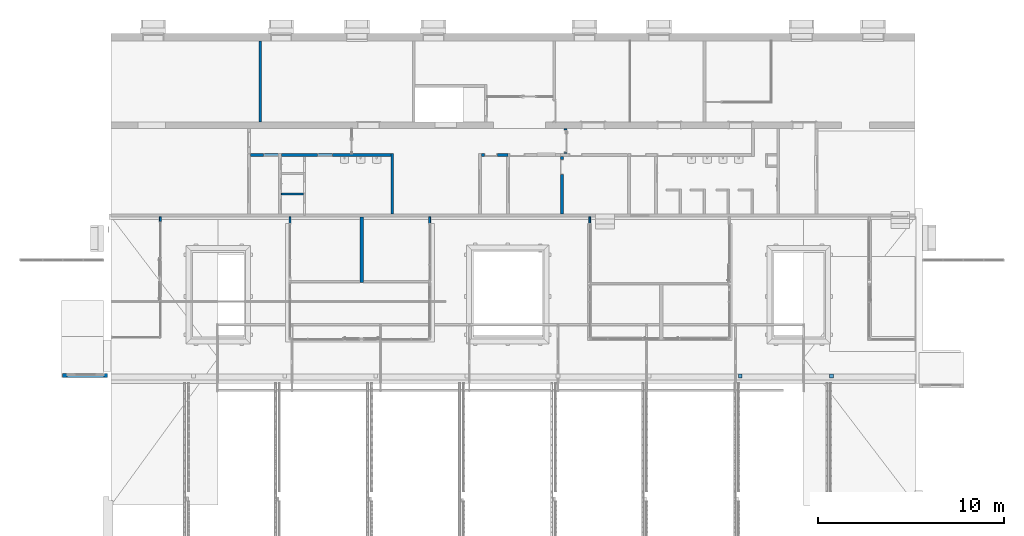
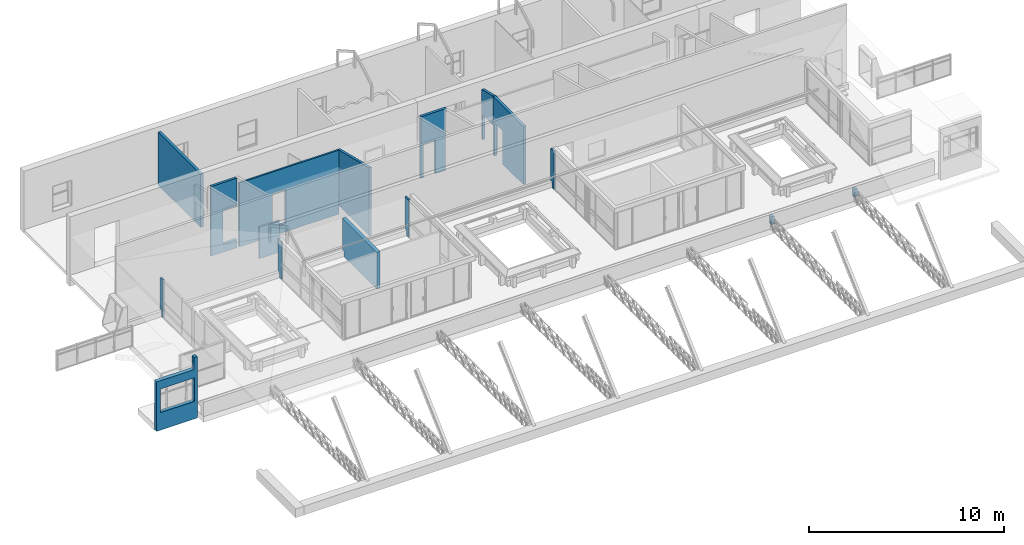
# One storey, part 125 of 153: 16 walls, 6 openings.
"""IFC4 building model written with IfcOpenShell, lengths in metres."""

from ifc_helpers import new_model, entity, si_unit, converted_unit, derived_unit, direction, frame, origin, place, context, subcontext, project, spatial, indexed_curve, outline, extrude, polygons, material, type_object, element, save


model = new_model("IFC4")

# Units and contexts
model_context = context("Model", 3, precision=1e-05, world=origin(), true_north=direction((6.123031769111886e-17, 1.0)))
body_context = subcontext(model_context, "Body", "Model", "MODEL_VIEW")
ifc_project = project(units=[si_unit("LENGTHUNIT", "METRE"), si_unit("AREAUNIT", "SQUARE_METRE"), si_unit("VOLUMEUNIT", "CUBIC_METRE"), converted_unit("PLANEANGLEUNIT", "DEGREE", entity("IfcRatioMeasure", 0.017453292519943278), si_unit("PLANEANGLEUNIT", "RADIAN"), dimensions=[0, 0, 0, 0, 0, 0, 0]), si_unit("MASSUNIT", "GRAM", prefix="KILO"), derived_unit("MASSDENSITYUNIT", [(si_unit("MASSUNIT", "GRAM", prefix="KILO"), 1), (si_unit("LENGTHUNIT", "METRE"), -3)]), derived_unit("MOMENTOFINERTIAUNIT", [(si_unit("LENGTHUNIT", "METRE"), 4)]), si_unit("TIMEUNIT", "SECOND"), si_unit("FREQUENCYUNIT", "HERTZ"), si_unit("THERMODYNAMICTEMPERATUREUNIT", "DEGREE_CELSIUS"), derived_unit("THERMALTRANSMITTANCEUNIT", [(si_unit("MASSUNIT", "GRAM", prefix="KILO"), 1), (si_unit("THERMODYNAMICTEMPERATUREUNIT", "KELVIN"), -1), (si_unit("TIMEUNIT", "SECOND"), -3)]), derived_unit("VOLUMETRICFLOWRATEUNIT", [(si_unit("LENGTHUNIT", "METRE"), 3), (si_unit("TIMEUNIT", "SECOND"), -1)]), derived_unit("MASSFLOWRATEUNIT", [(si_unit("MASSUNIT", "GRAM", prefix="KILO"), 1), (si_unit("TIMEUNIT", "SECOND"), -1)]), derived_unit("ROTATIONALFREQUENCYUNIT", [(si_unit("TIMEUNIT", "SECOND"), -1)]), si_unit("ELECTRICCURRENTUNIT", "AMPERE"), si_unit("ELECTRICVOLTAGEUNIT", "VOLT"), si_unit("POWERUNIT", "WATT"), si_unit("FORCEUNIT", "NEWTON", prefix="KILO"), si_unit("ILLUMINANCEUNIT", "LUX"), si_unit("LUMINOUSFLUXUNIT", "LUMEN"), si_unit("LUMINOUSINTENSITYUNIT", "CANDELA"), derived_unit("USERDEFINED", [(si_unit("MASSUNIT", "GRAM", prefix="KILO"), -1), (si_unit("LENGTHUNIT", "METRE"), -2), (si_unit("TIMEUNIT", "SECOND"), 3), (si_unit("LUMINOUSFLUXUNIT", "LUMEN"), 1)]), derived_unit("SOUNDPOWERUNIT", [(si_unit("MASSUNIT", "GRAM", prefix="KILO"), 1), (si_unit("LENGTHUNIT", "METRE"), 2), (si_unit("TIMEUNIT", "SECOND"), -3)]), derived_unit("SOUNDPRESSUREUNIT", [(si_unit("MASSUNIT", "GRAM", prefix="KILO"), 1), (si_unit("LENGTHUNIT", "METRE"), -1), (si_unit("TIMEUNIT", "SECOND"), -2)]), derived_unit("LINEARVELOCITYUNIT", [(si_unit("LENGTHUNIT", "METRE"), 1), (si_unit("TIMEUNIT", "SECOND"), -1)]), si_unit("PRESSUREUNIT", "PASCAL"), derived_unit("USERDEFINED", [(si_unit("LENGTHUNIT", "METRE"), -2), (si_unit("MASSUNIT", "GRAM", prefix="KILO"), 1), (si_unit("TIMEUNIT", "SECOND"), -2)]), derived_unit("LINEARFORCEUNIT", [(si_unit("MASSUNIT", "GRAM", prefix="KILO"), 1), (si_unit("LENGTHUNIT", "METRE"), 1), (si_unit("TIMEUNIT", "SECOND"), -2), (si_unit("LENGTHUNIT", "METRE"), -1)]), derived_unit("PLANARFORCEUNIT", [(si_unit("MASSUNIT", "GRAM", prefix="KILO"), 1), (si_unit("LENGTHUNIT", "METRE"), 1), (si_unit("TIMEUNIT", "SECOND"), -2), (si_unit("LENGTHUNIT", "METRE"), -2)])], contexts=[model_context])

# Site, building, storey
site_placement = place(None, origin())
site = spatial("IfcSite", under=ifc_project, at=site_placement, Name="Superficie", CompositionType="ELEMENT")
building_placement = place(site_placement, origin())
building = spatial("IfcBuilding", under=site, at=building_placement, CompositionType="ELEMENT")
storey_placement = place(building_placement, frame((0.0, 0.0, 3.5999999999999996)))
storey = spatial("IfcBuildingStorey", under=building, at=storey_placement, Name="Nivel 1", CompositionType="ELEMENT", Elevation=3.5999999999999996)

# Walls
ifc_material = material(Name="Muro por defecto", Category="Varios")
wall_type_1 = type_object("IfcWallType", Name="Muro básico:Por defecto - 20 cm", PredefinedType="STANDARD")
wall_1_placement = place(storey_placement, frame((-9.17320098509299, 2.0858292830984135, 0.0), z_axis=(0.0, 0.0, 1.0), x_axis=(0.0, 1.0, 0.0)))
element("IfcWall", 1, at=wall_1_placement, inside=storey, type_object=wall_type_1, material=ifc_material, Name="Muro básico:Por defecto - 20 cm", ObjectType="Muro básico:Por defecto - 20 cm", PredefinedType="NOTDEFINED", context=body_context, shape_type="Tessellation", body=[
    polygons([(5.414335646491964e-16, -0.10000000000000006, -5.414335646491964e-16), (0.0005639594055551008, -0.10000000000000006, -5.414335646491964e-16), (0.10056395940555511, -0.09999999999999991, -5.414335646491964e-16), (3.3899999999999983, -0.10000000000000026, -5.414335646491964e-16), (3.3899999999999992, -0.10000000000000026, 0.35000000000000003), (3.5399999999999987, -0.10000000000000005, 0.35000000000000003), (3.5399999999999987, -0.10000000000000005, 2.299999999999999), (0.10056395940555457, -0.09999999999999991, 2.299999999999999), (0.0005639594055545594, -0.10000000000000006, 2.299999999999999), (5.414335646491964e-16, -0.10000000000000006, 2.299999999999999), (0.0, 0.09999999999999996, -5.414335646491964e-16), (0.0, 0.09999999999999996, 2.299999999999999), (0.0005639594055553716, 0.09999999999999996, 2.299999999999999), (0.10056395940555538, 0.1000000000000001, 2.299999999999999), (3.539999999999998, 0.10000000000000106, 2.299999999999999), (3.539999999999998, 0.10000000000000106, 0.35000000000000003), (3.3899999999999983, 0.10000000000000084, 0.35000000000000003), (3.3899999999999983, 0.10000000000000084, -5.414335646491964e-16), (0.10056395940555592, 0.1000000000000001, -5.414335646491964e-16), (0.000563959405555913, 0.09999999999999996, -5.414335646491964e-16)], [[[1, 2, 3, 4, 5, 6, 7, 8, 9, 10]], [[11, 12, 13, 14, 15, 16, 17, 18, 19, 20]], [[4, 3, 2, 1, 11, 20, 19, 18]], [[10, 9, 8, 7, 15, 14, 13, 12]], [[1, 10, 12, 11]], [[16, 6, 5, 17]], [[5, 4, 18, 17]], [[7, 6, 16, 15]]], closed=True),
])
for number, where, z_axis, x_axis, name in (
    (2, (16.086799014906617, -3.0336067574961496, 0.0), (0.0, 0.0, 1.0), (0.0, 1.0, 0.0), "Muro básico:Por defecto - 20 cm"),
    (3, (11.186799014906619, -3.0336067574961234, 0.0), (0.0, 0.0, 1.0), (0.0, 1.0, 0.0), "Muro básico:Por defecto - 20 cm"),
):
    element("IfcWall", number, at=place(storey_placement, frame(where, z_axis=z_axis, x_axis=x_axis)), inside=storey, type_object=wall_type_1, material=ifc_material, Name=name, ObjectType="Muro básico:Por defecto - 20 cm", PredefinedType="NOTDEFINED", context=body_context, shape_type="SweptSolid", body=[
        extrude(outline(indexed_curve([(0.20999999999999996, 0.09999999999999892), (5.15651013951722e-17, 0.09999999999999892), (-5.15651013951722e-17, -0.09999999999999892), (0.20999999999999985, -0.09999999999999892), (0.20999999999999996, 0.09999999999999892)], self_intersect=False)), origin(), (0.0, 0.0, 1.0), 0.49000000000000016),
    ])
wall_type_2 = type_object("IfcWallType", Name="Muro básico:Por defecto - 10 cm", PredefinedType="STANDARD")
wall_2_placement = place(storey_placement, frame((-13.023200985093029, 5.27639324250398, 0.0), z_axis=(0.0, 0.0, 1.0), x_axis=(0.0, 1.0, 0.0)))
element("IfcWall", 4, at=wall_2_placement, inside=storey, type_object=wall_type_2, material=ifc_material, Name="Muro básico:Por defecto - 10 cm", ObjectType="Muro básico:Por defecto - 10 cm", PredefinedType="NOTDEFINED", context=body_context, shape_type="Tessellation", body=[
    polygons([(0.0, -0.049999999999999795, 5.414335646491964e-16), (0.19943604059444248, -0.050000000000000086, 5.414335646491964e-16), (0.19943604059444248, -0.050000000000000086, 0.3500000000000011), (0.34943604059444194, -0.04999999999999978, 0.3500000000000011), (0.34943604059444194, -0.04999999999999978, 2.3500000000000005), (0.0, -0.049999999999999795, 2.3500000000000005), (0.0, 0.049999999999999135, 5.414335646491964e-16), (0.0, 0.049999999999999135, 2.3500000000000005), (0.3494360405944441, 0.04999999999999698, 2.3500000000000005), (0.3494360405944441, 0.04999999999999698, 0.3500000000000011), (0.19943604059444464, 0.04999999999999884, 0.3500000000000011), (0.19943604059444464, 0.04999999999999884, 5.414335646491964e-16)], [[[1, 2, 3, 4, 5, 6]], [[7, 8, 9, 10, 11, 12]], [[2, 1, 7, 12]], [[6, 5, 9, 8]], [[1, 6, 8, 7]], [[10, 4, 3, 11]], [[3, 2, 12, 11]], [[5, 4, 10, 9]]], closed=True),
])
wall_3_placement = place(storey_placement, frame((-5.518200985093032, 5.276393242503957, 0.0), z_axis=(0.0, 0.0, 1.0), x_axis=(0.0, 1.0, 0.0)))
element("IfcWall", 5, at=wall_3_placement, inside=storey, type_object=wall_type_2, material=ifc_material, Name="Muro básico:Por defecto - 10 cm", ObjectType="Muro básico:Por defecto - 10 cm", PredefinedType="NOTDEFINED", context=body_context, shape_type="Tessellation", body=[
    polygons([(0.0, -0.049999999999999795, 5.414335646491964e-16), (0.19943604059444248, -0.050000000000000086, 5.414335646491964e-16), (0.19943604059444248, -0.050000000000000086, 0.3500000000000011), (0.34943604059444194, -0.04999999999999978, 0.3500000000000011), (0.34943604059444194, -0.04999999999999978, 2.3500000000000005), (0.0, -0.049999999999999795, 2.3500000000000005), (1.0828671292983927e-15, 0.05000000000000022, 5.414335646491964e-16), (1.0828671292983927e-15, 0.05000000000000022, 2.3500000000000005), (0.3494360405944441, 0.050000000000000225, 2.3500000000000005), (0.3494360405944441, 0.050000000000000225, 0.3500000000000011), (0.19943604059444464, 0.050000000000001, 0.3500000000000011), (0.19943604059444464, 0.04999999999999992, 5.414335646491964e-16)], [[[1, 2, 3, 4, 5, 6]], [[7, 8, 9, 10, 11, 12]], [[2, 1, 7, 12]], [[6, 5, 9, 8]], [[1, 6, 8, 7]], [[10, 4, 3, 11]], [[3, 2, 12, 11]], [[5, 4, 10, 9]]], closed=True),
])
wall_4_placement = place(storey_placement, frame((3.091799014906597, 5.276393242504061, 0.0), z_axis=(0.0, 0.0, 1.0), x_axis=(0.0, 1.0, 0.0)))
element("IfcWall", 6, at=wall_4_placement, inside=storey, type_object=wall_type_2, material=ifc_material, Name="Muro básico:Por defecto - 10 cm", ObjectType="Muro básico:Por defecto - 10 cm", PredefinedType="NOTDEFINED", context=body_context, shape_type="Tessellation", body=[
    polygons([(0.0, -0.049999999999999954, 5.414335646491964e-16), (0.19943604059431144, -0.05000000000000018, 5.414335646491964e-16), (0.19943604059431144, -0.05000000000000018, 0.3500000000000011), (0.34943604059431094, -0.049999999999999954, 0.3500000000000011), (0.34943604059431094, -0.049999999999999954, 2.3500000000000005), (0.0, -0.049999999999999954, 2.3500000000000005), (0.0, 0.05000000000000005, 5.414335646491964e-16), (0.0, 0.05000000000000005, 2.3500000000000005), (0.349436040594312, 0.05000000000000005, 2.3500000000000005), (0.349436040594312, 0.05000000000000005, 0.3500000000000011), (0.19943604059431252, 0.04999999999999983, 0.3500000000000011), (0.19943604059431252, 0.04999999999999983, 5.414335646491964e-16)], [[[1, 2, 3, 4, 5, 6]], [[7, 8, 9, 10, 11, 12]], [[2, 1, 7, 12]], [[6, 5, 9, 8]], [[1, 6, 8, 7]], [[10, 4, 3, 11]], [[3, 2, 12, 11]], [[5, 4, 10, 9]]], closed=True),
])
wall_5_placement = place(storey_placement, frame((-19.99320098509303, 5.3670831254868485, 0.0), z_axis=(0.0, 0.0, 1.0), x_axis=(0.0, 1.0, 0.0)))
element("IfcWall", 7, at=wall_5_placement, inside=storey, type_object=wall_type_2, material=ifc_material, Name="Muro básico:Por defecto - 10 cm", ObjectType="Muro básico:Por defecto - 10 cm", PredefinedType="NOTDEFINED", context=body_context, shape_type="Tessellation", body=[
    polygons([(0.0, -0.0499999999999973, 5.414335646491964e-16), (0.10874615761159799, -0.0499999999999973, 5.414335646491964e-16), (0.10874615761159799, -0.0499999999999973, 0.3500000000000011), (0.25874615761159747, -0.0499999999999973, 0.3500000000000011), (0.25874615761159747, -0.0499999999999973, 2.3500000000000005), (0.0, -0.0499999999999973, 2.3500000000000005), (0.0, 0.050000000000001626, 5.414335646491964e-16), (0.0, 0.050000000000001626, 2.3500000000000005), (0.2587461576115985, 0.050000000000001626, 2.3500000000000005), (0.2587461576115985, 0.050000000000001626, 0.3500000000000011), (0.10874615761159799, 0.050000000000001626, 0.3500000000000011), (0.10874615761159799, 0.050000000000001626, 5.414335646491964e-16)], [[[1, 2, 3, 4, 5, 6]], [[7, 8, 9, 10, 11, 12]], [[2, 1, 7, 12]], [[6, 5, 9, 8]], [[1, 6, 8, 7]], [[10, 4, 3, 11]], [[3, 2, 12, 11]], [[5, 4, 10, 9]]], closed=True),
])
wall_6_placement = place(storey_placement, frame((-13.488998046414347, 6.845829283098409, 0.5199999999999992)))
element("IfcWall", 8, at=wall_6_placement, inside=storey, type_object=wall_type_2, material=ifc_material, Name="Muro básico:Por defecto - 10 cm", ObjectType="Muro básico:Por defecto - 10 cm", PredefinedType="NOTDEFINED", context=body_context, shape_type="Tessellation", body=[
    polygons([(8.443120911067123e-17, -0.050000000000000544, 5.414335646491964e-16), (1.1899999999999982, -0.050000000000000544, 5.414335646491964e-16), (1.1899999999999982, -0.050000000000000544, 1.9800000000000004), (8.443120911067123e-17, -0.050000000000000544, 1.9800000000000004), (-2.6488076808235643e-16, 0.04999999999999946, 5.414335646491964e-16), (-2.6488076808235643e-16, 0.04999999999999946, 1.9800000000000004), (1.1899999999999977, 0.04999999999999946, 1.9800000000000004), (1.1899999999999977, 0.04999999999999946, 1.830000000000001), (1.1899999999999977, 0.04999999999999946, 5.414335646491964e-16)], [[[1, 2, 3, 4]], [[5, 6, 7, 8, 9]], [[4, 3, 7, 6]], [[1, 4, 6, 5]], [[3, 2, 9, 8, 7]], [[2, 1, 5, 9]]], closed=True),
])

# Wall, opening
wall_type_3 = type_object("IfcWallType", Name="Muro básico:Por defecto - 15 cm 2", PredefinedType="STANDARD")
wall_7_placement = place(storey_placement, frame((1.596001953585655, 8.875829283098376, 0.5200000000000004), z_axis=(0.0, 0.0, 1.0), x_axis=(0.0, -1.0, 0.0)))
wall_7 = element("IfcWall", 9, at=wall_7_placement, inside=storey, type_object=wall_type_3, material=ifc_material, Name="Muro básico:Por defecto - 15 cm 2", ObjectType="Muro básico:Por defecto - 15 cm 2", PredefinedType="NOTDEFINED", context=body_context, shape_type="Tessellation", body=[
    polygons([(3.099999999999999, -0.07500000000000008, 3.65), (0.0, -0.07500000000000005, 3.65), (0.0, -0.07500000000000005, 3.4801691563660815), (0.0, -0.07500000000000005, -5.414335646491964e-16), (0.16000000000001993, -0.07499999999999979, -5.414335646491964e-16), (0.16000000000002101, -0.07500000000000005, 2.0999999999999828), (0.9900000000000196, -0.07500000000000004, 2.0999999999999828), (0.9900000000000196, -0.07500000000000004, -5.414335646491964e-16), (3.1000000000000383, -0.07500000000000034, -5.414335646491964e-16), (0.0, 0.07499999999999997, 3.65), (3.099999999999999, 0.07499999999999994, 3.65), (3.099999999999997, 0.07499999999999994, -5.414335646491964e-16), (0.9900000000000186, 0.07499999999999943, -5.414335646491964e-16), (0.9900000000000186, 0.07499999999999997, 2.0999999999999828), (0.16000000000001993, 0.07500000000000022, 2.0999999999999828), (0.16000000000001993, 0.07499999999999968, -5.414335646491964e-16), (0.0, 0.07499999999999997, -5.414335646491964e-16)], [[[1, 2, 3, 4, 5, 6, 7, 8, 9]], [[10, 11, 12, 13, 14, 15, 16, 17]], [[2, 1, 11, 10]], [[11, 1, 9, 12]], [[2, 10, 17, 4, 3]], [[7, 14, 13, 8]], [[14, 7, 6, 15]], [[15, 6, 5, 16]], [[12, 9, 8, 13]], [[4, 17, 16, 5]]], closed=True),
])
opening_1_placement = place(wall_7_placement, frame((0.9900000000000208, 0.07499999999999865, 0.0)))
element("IfcOpeningElement", 10, at=opening_1_placement, cuts=wall_7, Name="Puerta de 1 hoja:83 x 210 cm 3:1", PredefinedType="OPENING", context=body_context, shape_type="SweptSolid", body=[
    extrude(outline(indexed_curve([(0.0, 5.414335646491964e-16), (2.099999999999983, 5.414335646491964e-16), (2.099999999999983, 0.8299999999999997), (0.0, 0.8299999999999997), (0.0, 5.414335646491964e-16)], self_intersect=False)), frame((0.0, 0.0, 0.0), z_axis=(0.0, -1.0, 0.0), x_axis=(0.0, 0.0, 1.0)), (0.0, 0.0, 1.0), 0.14999999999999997),
])

wall_8_placement = place(storey_placement, frame((-1.228998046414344, 8.950829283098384, 0.5199999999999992), z_axis=(0.0, 0.0, 1.0), x_axis=(-1.0, 0.0, 0.0)))
wall_8 = element("IfcWall", 11, at=wall_8_placement, inside=storey, type_object=wall_type_3, material=ifc_material, Name="Muro básico:Por defecto - 15 cm 2", ObjectType="Muro básico:Por defecto - 15 cm 2", PredefinedType="NOTDEFINED", context=body_context, shape_type="Tessellation", body=[
    polygons([(1.5099999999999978, -0.07500000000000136, 3.8595496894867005), (3.639490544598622e-16, -0.07499999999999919, 3.8595496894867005), (3.639490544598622e-16, -0.07499999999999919, 3.650000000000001), (0.07500000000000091, -0.07500000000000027, 3.650000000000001), (0.07500000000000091, -0.07500000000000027, 3.44297907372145), (0.07500000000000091, -0.07500000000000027, 5.414335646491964e-16), (0.6499999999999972, -0.07500000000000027, 5.414335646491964e-16), (0.6499999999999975, -0.07500000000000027, 2.099999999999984), (1.3499999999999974, -0.07499999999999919, 2.099999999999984), (1.3499999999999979, -0.07499999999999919, 5.414335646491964e-16), (1.5099999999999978, -0.07500000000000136, 5.414335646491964e-16), (1.5099999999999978, -0.07500000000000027, 3.8290934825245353), (9.323227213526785e-17, 0.07500000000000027, 3.8595496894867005), (1.5099999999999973, 0.07499999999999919, 3.8595496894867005), (1.5099999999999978, 0.07499999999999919, 5.414335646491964e-16), (1.3499999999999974, 0.07499999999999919, 5.414335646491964e-16), (1.3499999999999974, 0.07499999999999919, 2.099999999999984), (0.6499999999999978, 0.07499999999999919, 2.099999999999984), (0.6499999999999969, 0.07499999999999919, 5.414335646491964e-16), (0.1500000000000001, 0.07500000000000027, 5.414335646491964e-16), (0.07500000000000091, 0.07500000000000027, 5.414335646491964e-16), (0.07500000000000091, 0.07499999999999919, 3.4801691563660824), (0.07500000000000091, 0.07500000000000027, 3.650000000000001), (9.323227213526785e-17, 0.07500000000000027, 3.650000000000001)], [[[1, 2, 3, 4, 5, 6, 7, 8, 9, 10, 11, 12]], [[13, 14, 15, 16, 17, 18, 19, 20, 21, 22, 23, 24]], [[2, 1, 14, 13]], [[9, 17, 16, 10]], [[17, 9, 8, 18]], [[18, 8, 7, 19]], [[1, 12, 11, 15, 14]], [[6, 5, 4, 23, 22, 21]], [[24, 23, 4, 3]], [[2, 13, 24, 3]], [[6, 21, 20, 19, 7]], [[15, 11, 10, 16]]], closed=True),
])
opening_2_placement = place(wall_8_placement, frame((0.6499999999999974, -0.0750000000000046, 0.0)))
element("IfcOpeningElement", 12, at=opening_2_placement, cuts=wall_8, Name="Puerta de 1 hoja:70 x 210 cm:1", PredefinedType="OPENING", context=body_context, shape_type="SweptSolid", body=[
    extrude(outline(indexed_curve([(0.0, 0.7000000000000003), (0.0, 0.0), (2.099999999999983, 0.0), (2.099999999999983, 0.7000000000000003), (0.0, 0.7000000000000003)], self_intersect=False)), frame((0.0, 0.0, 0.0), z_axis=(0.0, 1.0, 0.0), x_axis=(0.0, 0.0, 1.0)), (0.0, 0.0, 1.0), 0.14999999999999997),
])

# Wall
wall_9_placement = place(storey_placement, frame((-7.523998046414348, 5.775829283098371, 0.5199999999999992), z_axis=(0.0, 0.0, 1.0), x_axis=(0.0, 1.0, 0.0)))
element("IfcWall", 13, at=wall_9_placement, inside=storey, type_object=wall_type_3, material=ifc_material, Name="Muro básico:Por defecto - 15 cm 2", ObjectType="Muro básico:Por defecto - 15 cm 2", PredefinedType="NOTDEFINED", context=body_context, shape_type="Tessellation", body=[
    polygons([(3.140314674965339e-14, -0.07499999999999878, 4.248764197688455), (3.465174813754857e-14, -0.07499999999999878, 5.414335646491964e-16), (3.250000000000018, -0.07499999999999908, 5.414335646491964e-16), (3.250000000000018, -0.07499999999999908, 3.4429790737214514), (1.191153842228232e-14, 0.07500000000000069, 5.414335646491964e-16), (3.465174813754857e-14, 0.07500000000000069, 4.248764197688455), (3.1000000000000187, 0.07500000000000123, 3.4801691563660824), (3.250000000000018, 0.07500000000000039, 3.4429790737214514), (3.250000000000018, 0.07500000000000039, 5.414335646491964e-16)], [[[1, 2, 3, 4]], [[5, 6, 7, 8, 9]], [[1, 6, 5, 2]], [[4, 3, 9, 8]], [[1, 4, 8, 7, 6]], [[3, 2, 5, 9]]], closed=True),
])

# Wall, opening
wall_10_placement = place(storey_placement, frame((-13.488998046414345, 8.950829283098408, 0.0)))
wall_10 = element("IfcWall", 14, at=wall_10_placement, inside=storey, type_object=wall_type_3, material=ifc_material, Name="Muro básico:Por defecto - 15 cm 2", ObjectType="Muro básico:Por defecto - 15 cm 2", PredefinedType="NOTDEFINED", context=body_context, shape_type="Tessellation", body=[
    polygons([(1.9550000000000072, -0.07500000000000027, 0.5199999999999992), (1.9550000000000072, -0.07500000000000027, 2.619999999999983), (2.755000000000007, -0.07499999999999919, 2.619999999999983), (2.755000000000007, -0.07499999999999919, 0.5199999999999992), (9.477519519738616e-16, -0.07499999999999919, -5.414335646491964e-16), (1.1899999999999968, -0.07499999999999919, -5.414335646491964e-16), (1.289999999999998, -0.07499999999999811, -5.414335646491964e-16), (5.890000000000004, -0.07499999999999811, -5.414335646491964e-16), (5.890000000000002, -0.07499999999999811, 4.00016915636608), (9.477519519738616e-16, -0.07499999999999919, 4.000169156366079), (5.890000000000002, 0.07500000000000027, -5.414335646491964e-16), (3.805000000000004, 0.07500000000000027, -5.414335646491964e-16), (3.7550000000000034, 0.07500000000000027, -5.414335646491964e-16), (4.782829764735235e-15, 0.07500000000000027, -5.414335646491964e-16), (2.6170955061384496e-15, 0.07500000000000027, 0.5199999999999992), (4.513612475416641e-16, 0.07500000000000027, 3.9629790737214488), (3.7550000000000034, 0.07500000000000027, 3.962979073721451), (3.805000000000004, 0.07500000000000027, 3.962979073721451), (5.890000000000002, 0.07500000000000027, 3.96297907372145), (5.890000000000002, 0.07500000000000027, 0.5199999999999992), (1.9550000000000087, 0.07500000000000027, 2.619999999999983), (1.9550000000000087, 0.07500000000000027, 0.5199999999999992), (2.7550000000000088, 0.07500000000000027, 0.5199999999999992), (2.7550000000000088, 0.07500000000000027, 2.619999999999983)], [[[5, 6, 7, 8, 9, 10], [1, 2, 3, 4]], [[11, 12, 13, 14, 15, 16, 17, 18, 19, 20], [21, 22, 23, 24]], [[8, 7, 6, 5, 14, 13, 12, 11]], [[9, 8, 11, 20, 19]], [[5, 10, 16, 15, 14]], [[1, 22, 21, 2]], [[2, 21, 24, 3]], [[3, 24, 23, 4]], [[22, 1, 4, 23]], [[10, 9, 19, 18, 17, 16]]], closed=True),
])
opening_3_placement = place(wall_10_placement, frame((2.755000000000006, 0.0749999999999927, 0.5200000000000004)))
element("IfcOpeningElement", 15, at=opening_3_placement, cuts=wall_10, Name="Puerta de 1 hoja:80 x 210 cm:1", PredefinedType="OPENING", context=body_context, shape_type="SweptSolid", body=[
    extrude(outline(indexed_curve([(0.0, 0.8), (0.0, 0.0), (2.099999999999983, 0.0), (2.099999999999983, 0.8), (0.0, 0.8)], self_intersect=False)), frame((0.0, 0.0, 0.0), z_axis=(0.0, -1.0, 0.0), x_axis=(0.0, 0.0, 1.0)), (0.0, 0.0, 1.0), 0.14999999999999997),
])

wall_11_placement = place(storey_placement, frame((-13.638998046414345, 8.950829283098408, 0.0), z_axis=(0.0, 0.0, 1.0), x_axis=(-1.0, 0.0, 0.0)))
wall_11 = element("IfcWall", 16, at=wall_11_placement, inside=storey, type_object=wall_type_3, material=ifc_material, Name="Muro básico:Por defecto - 15 cm 2", ObjectType="Muro básico:Por defecto - 15 cm 2", PredefinedType="NOTDEFINED", context=body_context, shape_type="Tessellation", body=[
    polygons([(-9.801945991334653e-17, -0.07500000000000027, -5.414335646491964e-16), (1.5099999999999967, -0.07500000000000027, -5.414335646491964e-16), (1.5099999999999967, -0.07500000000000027, 4.355901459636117), (-9.801945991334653e-17, -0.07500000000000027, 4.355901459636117), (-9.801945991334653e-17, -0.07500000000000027, 2.619999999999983), (0.7999999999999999, -0.07500000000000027, 2.619999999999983), (0.7999999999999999, -0.07500000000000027, 0.5199999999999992), (-9.801945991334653e-17, -0.07500000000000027, 0.5199999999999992), (1.5099999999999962, 0.07499999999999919, -5.414335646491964e-16), (-5.28297789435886e-16, 0.07500000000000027, -5.414335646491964e-16), (-5.28297789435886e-16, 0.07500000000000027, 0.5199999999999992), (0.7999999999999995, 0.07500000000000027, 0.5199999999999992), (0.7999999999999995, 0.07500000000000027, 2.619999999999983), (-5.28297789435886e-16, 0.07500000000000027, 2.619999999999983), (-5.28297789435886e-16, 0.07500000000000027, 4.355901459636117), (1.5099999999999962, 0.07499999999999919, 4.355901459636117), (1.5099999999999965, -0.050000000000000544, -5.414335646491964e-16)], [[[1, 2, 3, 4, 5, 6, 7, 8]], [[9, 10, 11, 12, 13, 14, 15, 16]], [[2, 1, 10, 9, 17]], [[4, 3, 16, 15]], [[10, 1, 8, 11]], [[3, 2, 17, 9, 16]], [[13, 6, 5, 14]], [[6, 13, 12, 7]], [[7, 12, 11, 8]], [[4, 15, 14, 5]]], closed=True),
])
opening_4_placement = place(wall_11_placement, frame((0.0, -0.07500000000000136, 0.5200000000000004)))
element("IfcOpeningElement", 17, at=opening_4_placement, cuts=wall_11, Name="Puerta de 1 hoja:80 x 210 cm:1", PredefinedType="OPENING", context=body_context, shape_type="SweptSolid", body=[
    extrude(outline(indexed_curve([(0.0, -3.7027888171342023e-31), (2.099999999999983, -3.7027888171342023e-31), (2.099999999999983, 0.8), (0.0, 0.8), (0.0, -3.7027888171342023e-31)], self_intersect=False)), frame((0.0, 0.0, 0.0), z_axis=(0.0, 1.0, 0.0), x_axis=(0.0, 0.0, 1.0)), (0.0, 0.0, 1.0), 0.14999999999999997),
])

wall_12_placement = place(storey_placement, frame((1.7860019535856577, 10.370829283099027, 0.5199999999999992), z_axis=(0.0, 0.0, 1.0), x_axis=(0.0, -1.0, 0.0)))
wall_12 = element("IfcWall", 18, at=wall_12_placement, inside=storey, type_object=wall_type_3, material=ifc_material, Name="Muro básico:Por defecto - 15 cm 2", ObjectType="Muro básico:Por defecto - 15 cm 2", PredefinedType="NOTDEFINED", context=body_context, shape_type="Tessellation", body=[
    polygons([(1.3450000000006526, -0.07500000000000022, 5.414335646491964e-16), (1.3450000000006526, -0.07500000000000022, 3.4429790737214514), (0.0, -0.07500000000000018, 3.109507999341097), (2.1657342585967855e-15, -0.07500000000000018, 5.414335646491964e-16), (0.08000000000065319, -0.07500000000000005, 5.414335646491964e-16), (0.08000000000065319, -0.07500000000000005, 1.579999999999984), (1.2800000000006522, -0.07500000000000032, 1.579999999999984), (1.2800000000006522, -0.07499999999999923, 5.414335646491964e-16), (1.3450000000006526, 0.07500000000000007, 3.4429790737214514), (1.3450000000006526, 0.07500000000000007, 5.414335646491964e-16), (1.2800000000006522, 0.07499999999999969, 5.414335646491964e-16), (1.2800000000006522, 0.07499999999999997, 1.579999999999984), (0.08000000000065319, 0.07499999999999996, 1.579999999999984), (0.08000000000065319, 0.07499999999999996, 5.414335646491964e-16), (2.1657342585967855e-15, 0.0750000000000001, 5.414335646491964e-16), (2.1657342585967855e-15, 0.0750000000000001, 3.109507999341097)], [[[1, 2, 3, 4, 5, 6, 7, 8]], [[9, 10, 11, 12, 13, 14, 15, 16]], [[2, 1, 10, 9]], [[10, 1, 8, 11]], [[4, 3, 16, 15]], [[3, 2, 9, 16]], [[7, 12, 11, 8]], [[12, 7, 6, 13]], [[13, 6, 5, 14]], [[4, 15, 14, 5]]], closed=True),
])
opening_5_placement = place(wall_12_placement, frame((0.08000000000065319, -0.07500000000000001, -0.5199999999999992)))
element("IfcOpeningElement", 19, at=opening_5_placement, cuts=wall_12, Name="Puerta de 1 hoja:120 x 210 cm 3:1", PredefinedType="OPENING", context=body_context, shape_type="SweptSolid", body=[
    extrude(outline(indexed_curve([(0.0, 1.199999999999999), (0.0, 0.0), (2.099999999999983, 0.0), (2.099999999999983, 1.199999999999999), (0.0, 1.199999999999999)], self_intersect=False)), frame((0.0, 0.0, 0.0), z_axis=(0.0, 1.0, 0.0), x_axis=(0.0, 0.0, 1.0)), (0.0, 0.0, 1.0), 0.14999999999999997),
])

# Wall
wall_13_placement = place(storey_placement, frame((-14.623998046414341, 10.730829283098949, 0.5199999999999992), z_axis=(0.0, 0.0, 1.0), x_axis=(0.0, 1.0, 0.0)))
element("IfcWall", 20, at=wall_13_placement, inside=storey, type_object=wall_type_3, material=ifc_material, Name="Muro básico:Por defecto - 15 cm 2", ObjectType="Muro básico:Por defecto - 15 cm 2", PredefinedType="NOTDEFINED", context=body_context, shape_type="Tessellation", body=[
    polygons([(1.2561258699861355e-13, -0.07499999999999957, 5.414335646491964e-16), (1.0649999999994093, -0.07499999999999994, 5.414335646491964e-16), (4.354999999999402, -0.07500000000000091, 5.414335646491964e-16), (4.354999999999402, -0.07500000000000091, 3.330000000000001), (4.114895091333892e-14, -0.07499999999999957, 3.330000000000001), (1.2561258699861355e-13, 0.07500000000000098, 5.414335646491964e-16), (1.2561258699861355e-13, 0.07500000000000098, 3.330000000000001), (4.354999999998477, 0.07499999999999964, 3.330000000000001), (4.354999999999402, 0.07499999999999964, 5.414335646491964e-16)], [[[1, 2, 3, 4, 5]], [[6, 7, 8, 9]], [[1, 5, 7, 6]], [[4, 3, 9, 8]], [[3, 2, 1, 6, 9]], [[5, 4, 8, 7]]], closed=True),
])

# Wall, opening
wall_type_4 = type_object("IfcWallType", Name="Muro básico:Por defecto - 22 cm 2", PredefinedType="STANDARD")
wall_14_placement = place(storey_placement, frame((-22.843200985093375, -2.9141707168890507, -0.19999999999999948), z_axis=(0.0, 0.0, 1.0), x_axis=(-1.0, 0.0, 0.0)))
wall_14 = element("IfcWall", 21, at=wall_14_placement, inside=storey, type_object=wall_type_4, material=ifc_material, Name="Muro básico:Por defecto - 22 cm 2", ObjectType="Muro básico:Por defecto - 22 cm 2", PredefinedType="NOTDEFINED", context=body_context, shape_type="Tessellation", body=[
    polygons([(5.734591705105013e-17, -0.1099999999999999, -5.414335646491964e-16), (2.4100000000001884, -0.1099999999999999, -5.414335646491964e-16), (2.4100000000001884, -0.1099999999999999, 3.099999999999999), (0.20000000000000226, -0.1099999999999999, 3.099999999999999), (0.20000000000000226, -0.10999999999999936, 3.850000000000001), (5.734591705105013e-17, -0.1099999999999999, 3.850000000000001), (0.1800000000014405, -0.1099999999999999, 2.5744802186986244), (2.1700000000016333, -0.1099999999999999, 2.5744802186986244), (2.1700000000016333, -0.1099999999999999, 1.0999999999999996), (0.1800000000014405, -0.1099999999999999, 1.0999999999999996), (2.410000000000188, 0.1099999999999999, -5.414335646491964e-16), (-6.178020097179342e-16, 0.1099999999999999, -5.414335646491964e-16), (-6.178020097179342e-16, 0.1099999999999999, 3.850000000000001), (0.20000000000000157, 0.11000000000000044, 3.850000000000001), (0.20000000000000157, 0.1099999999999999, 3.099999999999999), (2.410000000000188, 0.1099999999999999, 3.099999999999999), (2.170000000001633, 0.1099999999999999, 2.5744802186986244), (0.18000000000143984, 0.1099999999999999, 2.5744802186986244), (0.18000000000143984, 0.1099999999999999, 1.0999999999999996), (2.170000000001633, 0.1099999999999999, 1.0999999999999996)], [[[1, 2, 3, 4, 5, 6], [7, 8, 9, 10]], [[11, 12, 13, 14, 15, 16], [17, 18, 19, 20]], [[2, 1, 12, 11]], [[3, 2, 11, 16]], [[1, 6, 13, 12]], [[7, 18, 17, 8]], [[9, 20, 19, 10]], [[18, 7, 10, 19]], [[8, 17, 20, 9]], [[6, 5, 14, 13]], [[14, 5, 4, 15]], [[4, 3, 16, 15]]], closed=True),
])
opening_6_placement = place(wall_14_placement, origin())
element("IfcOpeningElement", 22, at=opening_6_placement, cuts=wall_14, Name="Muro básico:Por defecto - 22 cm 2", PredefinedType="OPENING", context=body_context, shape_type="SweptSolid", body=[
    extrude(outline(indexed_curve([(-0.7372401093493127, -0.9950000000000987), (0.7372401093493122, -0.9950000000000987), (0.7372401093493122, 0.9950000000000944), (-0.7372401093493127, 0.9950000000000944), (-0.7372401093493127, -0.9950000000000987)], self_intersect=False)), frame((1.1750000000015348, -0.1099999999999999, 1.8372401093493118), z_axis=(0.0, 1.0, 0.0), x_axis=(0.0, 0.0, -1.0)), (0.0, 0.0, 1.0), 0.2199999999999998),
])

save(model, "model.ifc")
